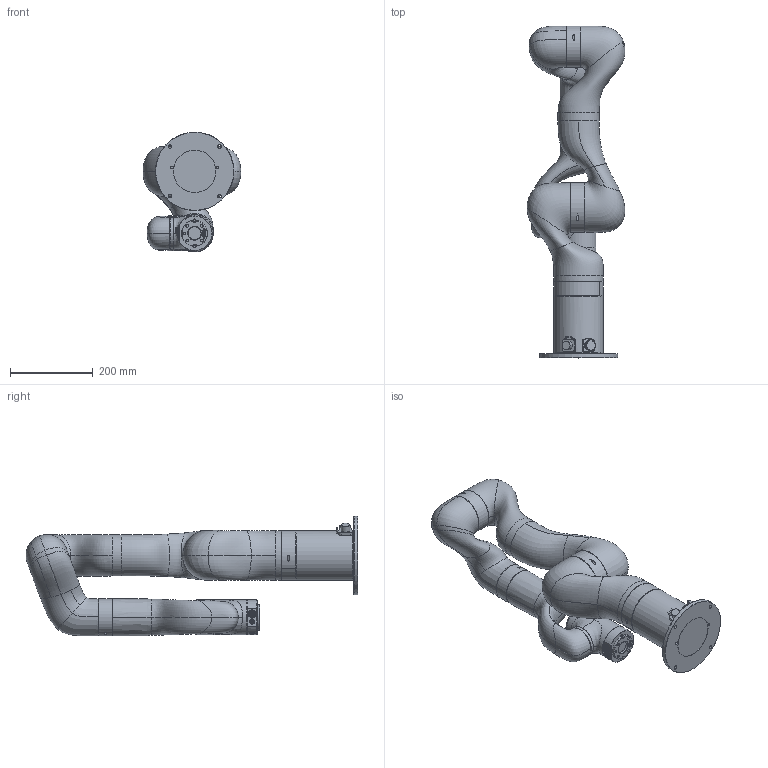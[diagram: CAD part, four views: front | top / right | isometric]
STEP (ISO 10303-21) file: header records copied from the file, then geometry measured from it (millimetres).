
FILE_DESCRIPTION (( 'STEP AP203' ), '1' );
FILE_NAME ('FX85_Pub.STEP', '2024-07-15T07:29:44', ( '' ), ( '' ), 'SwSTEP 2.0', 'SolidWorks 2016', '' );
FILE_SCHEMA (( 'CONFIG_CONTROL_DESIGN' ));
Length unit declared in the file: metre
Products named in the file (8): FX85_P04; FX85_P01; FX85_P07; FX85_P06; FX85_P05; FX85_P02; FX85_P03; FX85_Pub
Assembly tree (7 placements, depth 2):
  FX85_Pub
    FX85_P01
    FX85_P02
    FX85_P03
    FX85_P04
    FX85_P05
    FX85_P06
    FX85_P07
Bounding box: 237.19 x 804.11 x 289.98 mm (x, y, z)
Volume: 13135519.9 mm3; surface area: 797739.2 mm2
Topology: 13 solids, 20 shells, 984 faces, 2760 edges, 1920 vertices
Faces by surface type: plane 382, bspline 275, cylinder 204, cone 82, torus 41
Full cylindrical faces by diameter (mm): 0.64 x12, 0.8 x12, 1.02 x1, 1.5 x4, 1.6 x2, 2 x12, 2.5 x4, 5 x1, 6 x10, 6.5 x6, 6.9 x1, 7 x2, 8.5 x4, 8.6 x1, 8.7 x1, 10.5 x1, 13.2 x1, 13.8 x1, 14 x1, 14.5 x1, 16.2 x4, 20.7 x1, 22 x1, 31.5 x1, 76 x2, 84 x2, 90 x1, 100 x2, 103 x1, 120 x3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
Entity records: 111957 total; most frequent: CARTESIAN_POINT 89727, ORIENTED_EDGE 5144, DIRECTION 2894, EDGE_CURVE 2572, VERTEX_POINT 1878, B_SPLINE_CURVE_WITH_KNOTS 1399, EDGE_LOOP 1242, FACE_OUTER_BOUND 1084
